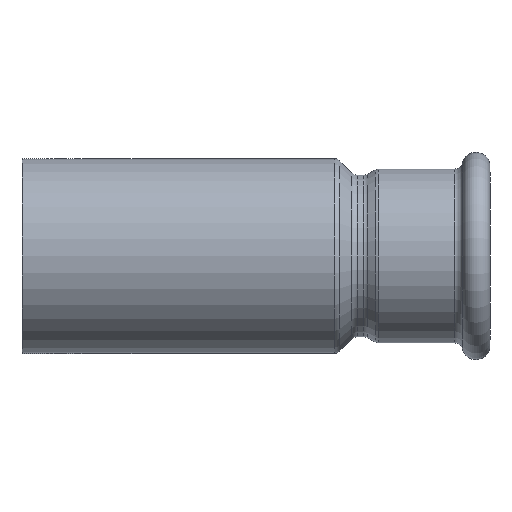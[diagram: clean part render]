
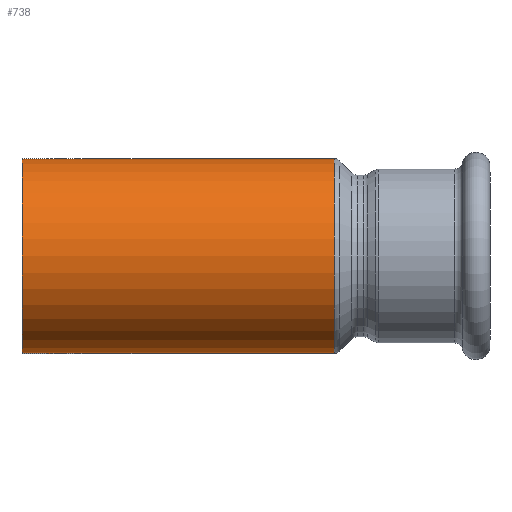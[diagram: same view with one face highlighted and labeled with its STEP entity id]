
A CAD part, front view. The second image highlights one B-rep face of the part: STEP entity #738.
In plain terms, the highlighted cylindrical face has radius 17.5 mm (diameter 35 mm), a partial arc.
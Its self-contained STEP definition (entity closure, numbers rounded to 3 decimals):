
#15 = CARTESIAN_POINT ( 'NONE',  ( 17.512, 0., 17.5 ) ) ;
#35 = EDGE_CURVE ( 'NONE', #560, #1116, #1141, .T. ) ;
#67 = CARTESIAN_POINT ( 'NONE',  ( -38.488, 0., 17.5 ) ) ;
#77 = DIRECTION ( 'NONE',  ( -1., 0., 0. ) ) ;
#78 = CARTESIAN_POINT ( 'NONE',  ( 17.512, 0., -17.5 ) ) ;
#80 = EDGE_CURVE ( 'NONE', #885, #1116, #441, .T. ) ;
#82 = DIRECTION ( 'NONE',  ( -1., 0., 0. ) ) ;
#144 = AXIS2_PLACEMENT_3D ( 'NONE', #916, #77, #457 ) ;
#169 = CARTESIAN_POINT ( 'NONE',  ( 17.512, 0., 0. ) ) ;
#178 = FACE_OUTER_BOUND ( 'NONE', #1040, .T. ) ;
#190 = CIRCLE ( 'NONE', #370, 17.5 ) ;
#251 = ORIENTED_EDGE ( 'NONE', *, *, #318, .T. ) ;
#285 = ORIENTED_EDGE ( 'NONE', *, *, #455, .F. ) ;
#318 = EDGE_CURVE ( 'NONE', #453, #560, #190, .T. ) ;
#321 = DIRECTION ( 'NONE',  ( -1., 0., 0. ) ) ;
#370 = AXIS2_PLACEMENT_3D ( 'NONE', #169, #915, #735 ) ;
#441 = CIRCLE ( 'NONE', #1062, 17.5 ) ;
#453 = VERTEX_POINT ( 'NONE', #78 ) ;
#455 = EDGE_CURVE ( 'NONE', #453, #885, #753, .T. ) ;
#457 = DIRECTION ( 'NONE',  ( 0., 0., 1. ) ) ;
#560 = VERTEX_POINT ( 'NONE', #15 ) ;
#585 = DIRECTION ( 'NONE',  ( 0., 0., 1. ) ) ;
#637 = ORIENTED_EDGE ( 'NONE', *, *, #35, .T. ) ;
#697 = CARTESIAN_POINT ( 'NONE',  ( -38.488, 0., 0. ) ) ;
#735 = DIRECTION ( 'NONE',  ( 0., 0., -1. ) ) ;
#738 = ADVANCED_FACE ( 'NONE', ( #178 ), #923, .T. ) ;
#753 = LINE ( 'NONE', #1121, #1178 ) ;
#802 = ORIENTED_EDGE ( 'NONE', *, *, #80, .F. ) ;
#885 = VERTEX_POINT ( 'NONE', #1138 ) ;
#915 = DIRECTION ( 'NONE',  ( -1., 0., 0. ) ) ;
#916 = CARTESIAN_POINT ( 'NONE',  ( -53.513, 0., 0. ) ) ;
#923 = CYLINDRICAL_SURFACE ( 'NONE', #144, 17.5 ) ;
#967 = CARTESIAN_POINT ( 'NONE',  ( -53.513, 0., 17.5 ) ) ;
#1040 = EDGE_LOOP ( 'NONE', ( #285, #251, #637, #802 ) ) ;
#1051 = DIRECTION ( 'NONE',  ( -1., 0., 0. ) ) ;
#1062 = AXIS2_PLACEMENT_3D ( 'NONE', #697, #1051, #585 ) ;
#1116 = VERTEX_POINT ( 'NONE', #67 ) ;
#1121 = CARTESIAN_POINT ( 'NONE',  ( -53.513, 0., -17.5 ) ) ;
#1138 = CARTESIAN_POINT ( 'NONE',  ( -38.488, 0., -17.5 ) ) ;
#1141 = LINE ( 'NONE', #967, #1190 ) ;
#1178 = VECTOR ( 'NONE', #82, 1000. ) ;
#1190 = VECTOR ( 'NONE', #321, 1000. ) ;
